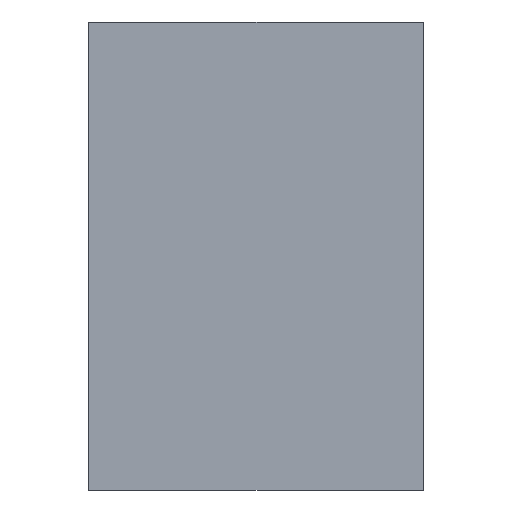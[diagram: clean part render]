
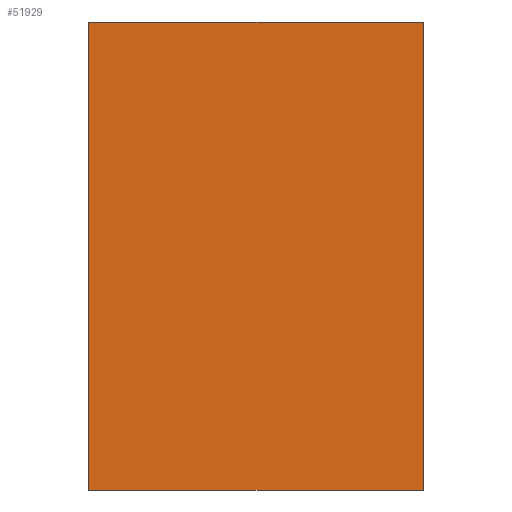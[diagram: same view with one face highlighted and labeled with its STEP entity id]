
A CAD part, front view. The second image highlights one B-rep face of the part: STEP entity #51929.
In plain terms, the highlighted planar face has unit normal (0, -1, 0).
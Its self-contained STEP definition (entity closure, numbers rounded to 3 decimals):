
#3311=FACE_OUTER_BOUND('',#6484,.T.);
#6484=EDGE_LOOP('',(#47155,#47156,#47157,#47158));
#13674=LINE('',#80183,#20878);
#13747=LINE('',#80267,#20951);
#13748=LINE('',#80269,#20952);
#13749=LINE('',#80270,#20953);
#20878=VECTOR('',#65884,10.);
#20951=VECTOR('',#65967,10.);
#20952=VECTOR('',#65968,10.);
#20953=VECTOR('',#65969,10.);
#25763=VERTEX_POINT('',#80180);
#25764=VERTEX_POINT('',#80182);
#25770=VERTEX_POINT('',#80266);
#25771=VERTEX_POINT('',#80268);
#32913=EDGE_CURVE('',#25764,#25763,#13674,.T.);
#32986=EDGE_CURVE('',#25763,#25770,#13747,.T.);
#32987=EDGE_CURVE('',#25770,#25771,#13748,.T.);
#32988=EDGE_CURVE('',#25771,#25764,#13749,.T.);
#47155=ORIENTED_EDGE('',*,*,#32986,.T.);
#47156=ORIENTED_EDGE('',*,*,#32987,.T.);
#47157=ORIENTED_EDGE('',*,*,#32988,.T.);
#47158=ORIENTED_EDGE('',*,*,#32913,.T.);
#49675=PLANE('',#54226);
#51929=ADVANCED_FACE('',(#3311),#49675,.T.);
#54226=AXIS2_PLACEMENT_3D('',#80265,#65965,#65966);
#65884=DIRECTION('',(0.,0.,-1.));
#65965=DIRECTION('center_axis',(0.,-1.,0.));
#65966=DIRECTION('ref_axis',(0.,0.,-1.));
#65967=DIRECTION('',(1.,0.,0.));
#65968=DIRECTION('',(0.,0.,1.));
#65969=DIRECTION('',(-1.,0.,0.));
#80180=CARTESIAN_POINT('',(-288.,-788.,-100.));
#80182=CARTESIAN_POINT('',(-288.,-788.,707.));
#80183=CARTESIAN_POINT('',(-288.,-788.,-100.));
#80265=CARTESIAN_POINT('Origin',(0.,-788.,303.5));
#80266=CARTESIAN_POINT('',(288.,-788.,-100.));
#80267=CARTESIAN_POINT('',(288.,-788.,-100.));
#80268=CARTESIAN_POINT('',(288.,-788.,707.));
#80269=CARTESIAN_POINT('',(288.,-788.,707.));
#80270=CARTESIAN_POINT('',(-288.,-788.,707.));
